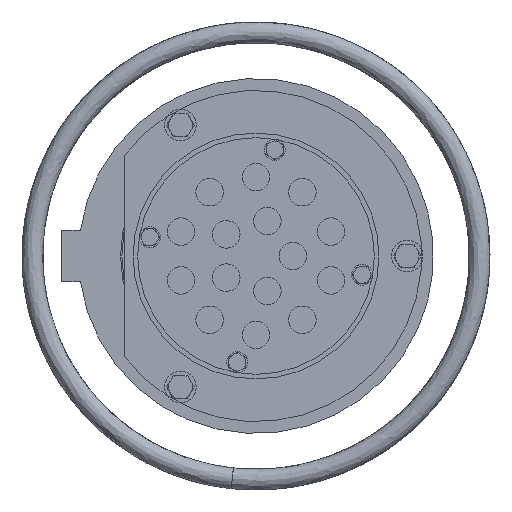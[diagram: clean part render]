
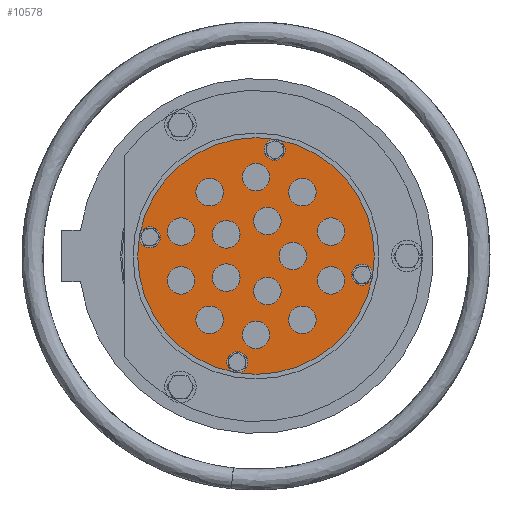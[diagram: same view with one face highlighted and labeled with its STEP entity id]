
A CAD part, left-side view. The second image highlights one B-rep face of the part: STEP entity #10578.
In plain terms, the highlighted planar face has unit normal (-1, 0, 0).
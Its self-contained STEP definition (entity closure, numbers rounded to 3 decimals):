
#1879=PLANE('',#11387);
#2410=FACE_OUTER_BOUND('',#3066,.T.);
#3066=EDGE_LOOP('',(#8605));
#3841=CIRCLE('',#11388,90.);
#4704=VERTEX_POINT('',#34619);
#6038=EDGE_CURVE('',#4704,#4704,#3841,.T.);
#8605=ORIENTED_EDGE('',*,*,#6038,.T.);
#10578=ADVANCED_FACE('',(#2410),#1879,.T.);
#11387=AXIS2_PLACEMENT_3D('',#34618,#13307,#13308);
#11388=AXIS2_PLACEMENT_3D('',#34620,#13309,#13310);
#13307=DIRECTION('center_axis',(-1.,0.,0.));
#13308=DIRECTION('ref_axis',(0.,0.,
-1.));
#13309=DIRECTION('center_axis',(-1.,0.,0.));
#13310=DIRECTION('ref_axis',(0.,0.,
-1.));
#34618=CARTESIAN_POINT('Origin',(-70.,0.,0.));
#34619=CARTESIAN_POINT('',(-70.,0.,90.));
#34620=CARTESIAN_POINT('Origin',(-70.,0.,0.));
